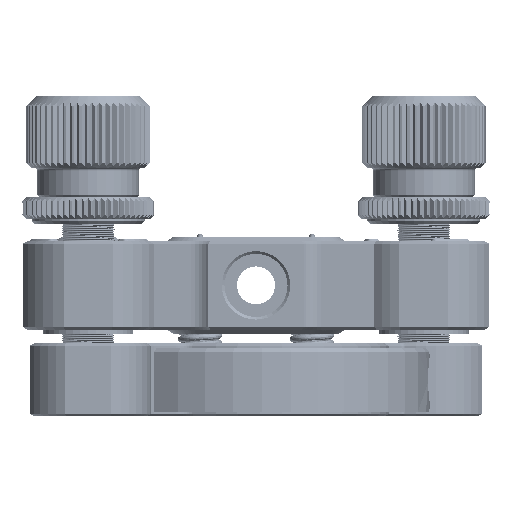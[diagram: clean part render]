
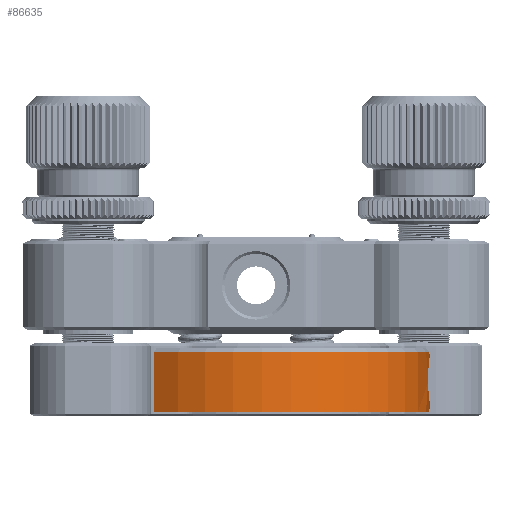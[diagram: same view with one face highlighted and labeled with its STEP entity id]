
A CAD part, left-side view. The second image highlights one B-rep face of the part: STEP entity #86635.
In plain terms, the highlighted cylindrical face has radius 19.63 mm (diameter 39.26 mm), a partial arc.
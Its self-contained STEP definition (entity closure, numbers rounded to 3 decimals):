
#70504=DIRECTION('',(0.,0.,1.));
#70505=VECTOR('',#70504,6.8);
#70506=CARTESIAN_POINT('',(-7.419,-34.86,
-3.15));
#70507=LINE('',#70506,#70505);
#71042=CARTESIAN_POINT('',(-19.04,-19.04,3.65));
#71043=DIRECTION('',(0.,0.,1.));
#71044=DIRECTION('',(-0.808,0.589,0.));
#71045=AXIS2_PLACEMENT_3D('',#71042,#71043,#71044);
#71949=DIRECTION('',(0.,0.,1.));
#71950=VECTOR('',#71949,6.8);
#71951=CARTESIAN_POINT('',(-34.897,-7.469,
-3.15));
#71952=LINE('',#71951,#71950);
#71953=CARTESIAN_POINT('',(-38.502,-16.475,
0.));
#71954=CARTESIAN_POINT('',(-38.501,-16.474,
0.195));
#71955=CARTESIAN_POINT('',(-38.508,-16.522,
0.59));
#71956=CARTESIAN_POINT('',(-38.535,-16.737,
1.156));
#71957=CARTESIAN_POINT('',(-38.574,-17.087,
1.658));
#71958=CARTESIAN_POINT('',(-38.616,-17.555,
2.069));
#71959=CARTESIAN_POINT('',(-38.651,-18.113,
2.358));
#71960=CARTESIAN_POINT('',(-38.671,-18.728,
2.507));
#71961=CARTESIAN_POINT('',(-38.671,-19.361,
2.506));
#71962=CARTESIAN_POINT('',(-38.651,-19.975,
2.355));
#71963=CARTESIAN_POINT('',(-38.615,-20.533,
2.064));
#71964=CARTESIAN_POINT('',(-38.574,-20.998,
1.653));
#71965=CARTESIAN_POINT('',(-38.535,-21.347,
1.148));
#71966=CARTESIAN_POINT('',(-38.508,-21.56,
0.58));
#71967=CARTESIAN_POINT('',(-38.501,-21.607,
0.19));
#71968=CARTESIAN_POINT('',(-38.502,-21.605,
0.));
#71970=CARTESIAN_POINT('',(-38.502,-21.605,
0.));
#71971=CARTESIAN_POINT('',(-38.501,-21.606,
-0.195));
#71972=CARTESIAN_POINT('',(-38.508,-21.558,
-0.59));
#71973=CARTESIAN_POINT('',(-38.535,-21.343,
-1.156));
#71974=CARTESIAN_POINT('',(-38.574,-20.994,
-1.658));
#71975=CARTESIAN_POINT('',(-38.616,-20.525,
-2.069));
#71976=CARTESIAN_POINT('',(-38.651,-19.967,
-2.358));
#71977=CARTESIAN_POINT('',(-38.671,-19.352,
-2.507));
#71978=CARTESIAN_POINT('',(-38.671,-18.719,
-2.506));
#71979=CARTESIAN_POINT('',(-38.651,-18.105,
-2.355));
#71980=CARTESIAN_POINT('',(-38.615,-17.547,
-2.064));
#71981=CARTESIAN_POINT('',(-38.574,-17.082,
-1.653));
#71982=CARTESIAN_POINT('',(-38.535,-16.733,
-1.148));
#71983=CARTESIAN_POINT('',(-38.508,-16.52,
-0.58));
#71984=CARTESIAN_POINT('',(-38.501,-16.473,
-0.19));
#71985=CARTESIAN_POINT('',(-38.502,-16.475,
0.));
#71996=CARTESIAN_POINT('',(-34.897,-7.469,
-3.15));
#71998=CARTESIAN_POINT('',(-19.04,-19.04,
-3.15));
#71999=DIRECTION('',(0.,0.,1.));
#72000=DIRECTION('',(-0.808,0.589,0.));
#72001=AXIS2_PLACEMENT_3D('',#71998,#71999,#72000);
#81968=CARTESIAN_POINT('',(-34.897,-7.469,3.65));
#81969=CARTESIAN_POINT('',(-7.419,-34.86,3.65));
#81970=VERTEX_POINT('',#81968);
#81971=VERTEX_POINT('',#81969);
#82457=VERTEX_POINT('',#71996);
#82460=CARTESIAN_POINT('',(-7.419,-34.86,
-3.15));
#82461=VERTEX_POINT('',#82460);
#82519=VERTEX_POINT('',#71953);
#82520=VERTEX_POINT('',#71968);
#86617=CARTESIAN_POINT('',(-19.04,-19.04,-3.65));
#86618=DIRECTION('',(0.,0.,1.));
#86619=DIRECTION('',(-1.,0.,0.));
#86620=AXIS2_PLACEMENT_3D('',#86617,#86618,#86619);
#86621=CYLINDRICAL_SURFACE('',#86620,19.63);
#86623=ORIENTED_EDGE('',*,*,#86622,.F.);
#86624=ORIENTED_EDGE('',*,*,#86601,.T.);
#86625=ORIENTED_EDGE('',*,*,#85642,.T.);
#86626=ORIENTED_EDGE('',*,*,#85236,.F.);
#86627=EDGE_LOOP('',(#86623,#86624,#86625,#86626));
#86628=FACE_OUTER_BOUND('',#86627,.F.);
#86630=ORIENTED_EDGE('',*,*,#86629,.F.);
#86632=ORIENTED_EDGE('',*,*,#86631,.F.);
#86633=EDGE_LOOP('',(#86630,#86632));
#86634=FACE_BOUND('',#86633,.F.);
#86635=ADVANCED_FACE('',(#86628,#86634),#86621,.T.);
#71046=CIRCLE('',#71045,19.63);
#71969=B_SPLINE_CURVE_WITH_KNOTS('',3,(#71953,#71954,#71955,#71956,#71957,
#71958,#71959,#71960,#71961,#71962,#71963,#71964,#71965,#71966,#71967,#71968),
.UNSPECIFIED.,.F.,.F.,(4,1,1,1,1,1,1,1,1,1,1,1,1,4),(0.,0.077,
0.154,0.231,0.308,0.385,
0.462,0.538,0.615,0.692,
0.769,0.846,0.923,1.),.UNSPECIFIED.);
#71986=B_SPLINE_CURVE_WITH_KNOTS('',3,(#71970,#71971,#71972,#71973,#71974,
#71975,#71976,#71977,#71978,#71979,#71980,#71981,#71982,#71983,#71984,#71985),
.UNSPECIFIED.,.F.,.F.,(4,1,1,1,1,1,1,1,1,1,1,1,1,4),(0.,0.077,
0.154,0.231,0.308,0.385,
0.462,0.538,0.615,0.692,
0.769,0.846,0.923,1.),.UNSPECIFIED.);
#72002=CIRCLE('',#72001,19.63);
#85236=EDGE_CURVE('',#82461,#81971,#70507,.T.);
#85642=EDGE_CURVE('',#81970,#81971,#71046,.T.);
#86601=EDGE_CURVE('',#82457,#81970,#71952,.T.);
#86622=EDGE_CURVE('',#82457,#82461,#72002,.T.);
#86629=EDGE_CURVE('',#82519,#82520,#71969,.T.);
#86631=EDGE_CURVE('',#82520,#82519,#71986,.T.);
